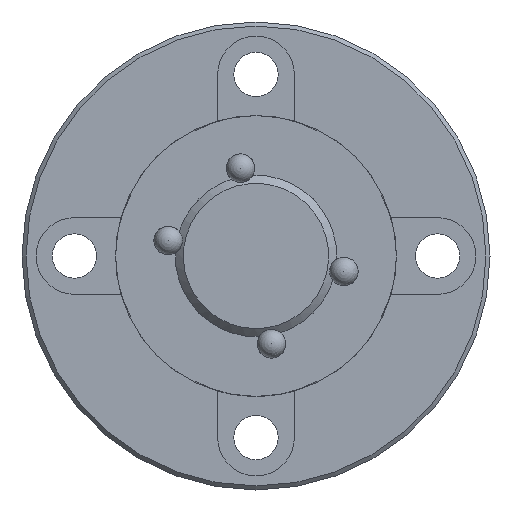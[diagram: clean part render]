
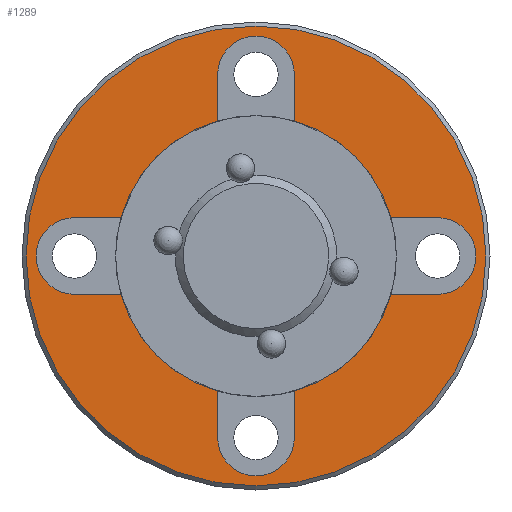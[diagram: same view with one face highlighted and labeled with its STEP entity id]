
A CAD part, left-side view. The second image highlights one B-rep face of the part: STEP entity #1289.
In plain terms, the highlighted planar face has unit normal (-1, 0, 0).
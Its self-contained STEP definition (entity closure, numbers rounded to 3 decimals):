
#54=PLANE('',#1433);
#136=LINE('',#2567,#184);
#137=LINE('',#2568,#185);
#138=LINE('',#2572,#186);
#139=LINE('',#2573,#187);
#140=LINE('',#2577,#188);
#141=LINE('',#2578,#189);
#142=LINE('',#2582,#190);
#143=LINE('',#2583,#191);
#184=VECTOR('',#1691,1000.);
#185=VECTOR('',#1692,1000.);
#186=VECTOR('',#1695,1000.);
#187=VECTOR('',#1696,1000.);
#188=VECTOR('',#1699,1000.);
#189=VECTOR('',#1700,1000.);
#190=VECTOR('',#1703,1000.);
#191=VECTOR('',#1704,1000.);
#341=ORIENTED_EDGE('',*,*,#624,.T.);
#342=ORIENTED_EDGE('',*,*,#625,.T.);
#343=ORIENTED_EDGE('',*,*,#607,.T.);
#344=ORIENTED_EDGE('',*,*,#626,.T.);
#345=ORIENTED_EDGE('',*,*,#627,.T.);
#346=ORIENTED_EDGE('',*,*,#628,.T.);
#347=ORIENTED_EDGE('',*,*,#603,.T.);
#348=ORIENTED_EDGE('',*,*,#629,.T.);
#349=ORIENTED_EDGE('',*,*,#630,.T.);
#350=ORIENTED_EDGE('',*,*,#631,.T.);
#351=ORIENTED_EDGE('',*,*,#599,.T.);
#352=ORIENTED_EDGE('',*,*,#632,.T.);
#353=ORIENTED_EDGE('',*,*,#633,.T.);
#354=ORIENTED_EDGE('',*,*,#634,.T.);
#355=ORIENTED_EDGE('',*,*,#611,.T.);
#356=ORIENTED_EDGE('',*,*,#635,.T.);
#357=ORIENTED_EDGE('',*,*,#622,.T.);
#599=EDGE_CURVE('',#755,#753,#860,.T.);
#603=EDGE_CURVE('',#759,#758,#862,.T.);
#607=EDGE_CURVE('',#763,#762,#864,.T.);
#611=EDGE_CURVE('',#767,#766,#866,.T.);
#622=EDGE_CURVE('',#776,#776,#872,.T.);
#624=EDGE_CURVE('',#778,#779,#874,.T.);
#625=EDGE_CURVE('',#779,#763,#136,.T.);
#626=EDGE_CURVE('',#762,#780,#137,.T.);
#627=EDGE_CURVE('',#780,#781,#875,.T.);
#628=EDGE_CURVE('',#781,#759,#138,.T.);
#629=EDGE_CURVE('',#758,#782,#139,.T.);
#630=EDGE_CURVE('',#782,#783,#876,.T.);
#631=EDGE_CURVE('',#783,#755,#140,.T.);
#632=EDGE_CURVE('',#753,#784,#141,.T.);
#633=EDGE_CURVE('',#784,#785,#877,.T.);
#634=EDGE_CURVE('',#785,#767,#142,.T.);
#635=EDGE_CURVE('',#766,#778,#143,.T.);
#753=VERTEX_POINT('',#2488);
#755=VERTEX_POINT('',#2491);
#758=VERTEX_POINT('',#2497);
#759=VERTEX_POINT('',#2499);
#762=VERTEX_POINT('',#2505);
#763=VERTEX_POINT('',#2507);
#766=VERTEX_POINT('',#2513);
#767=VERTEX_POINT('',#2515);
#776=VERTEX_POINT('',#2560);
#778=VERTEX_POINT('',#2565);
#779=VERTEX_POINT('',#2566);
#780=VERTEX_POINT('',#2569);
#781=VERTEX_POINT('',#2571);
#782=VERTEX_POINT('',#2574);
#783=VERTEX_POINT('',#2576);
#784=VERTEX_POINT('',#2579);
#785=VERTEX_POINT('',#2581);
#860=CIRCLE('',#1416,17.4);
#862=CIRCLE('',#1418,17.4);
#864=CIRCLE('',#1420,17.4);
#866=CIRCLE('',#1422,17.4);
#872=CIRCLE('',#1431,28.5);
#874=CIRCLE('',#1434,4.75);
#875=CIRCLE('',#1435,4.75);
#876=CIRCLE('',#1436,4.75);
#877=CIRCLE('',#1437,4.75);
#973=EDGE_LOOP('',(#341,#342,#343,#344,#345,#346,#347,#348,#349,#350,#351,
#352,#353,#354,#355,#356));
#974=EDGE_LOOP('',(#357));
#1131=FACE_BOUND('',#973,.T.);
#1132=FACE_BOUND('',#974,.T.);
#1289=ADVANCED_FACE('',(#1131,#1132),#54,.F.);
#1416=AXIS2_PLACEMENT_3D('',#2490,#1645,#1646);
#1418=AXIS2_PLACEMENT_3D('',#2498,#1651,#1652);
#1420=AXIS2_PLACEMENT_3D('',#2506,#1657,#1658);
#1422=AXIS2_PLACEMENT_3D('',#2514,#1663,#1664);
#1431=AXIS2_PLACEMENT_3D('',#2559,#1683,#1684);
#1433=AXIS2_PLACEMENT_3D('',#2563,#1687,#1688);
#1434=AXIS2_PLACEMENT_3D('',#2564,#1689,#1690);
#1435=AXIS2_PLACEMENT_3D('',#2570,#1693,#1694);
#1436=AXIS2_PLACEMENT_3D('',#2575,#1697,#1698);
#1437=AXIS2_PLACEMENT_3D('',#2580,#1701,#1702);
#1645=DIRECTION('',(1.,0.,0.));
#1646=DIRECTION('',(0.,0.,-1.));
#1651=DIRECTION('',(1.,0.,0.));
#1652=DIRECTION('',(0.,0.,-1.));
#1657=DIRECTION('',(1.,0.,0.));
#1658=DIRECTION('',(0.,0.,-1.));
#1663=DIRECTION('',(1.,0.,0.));
#1664=DIRECTION('',(0.,0.,-1.));
#1683=DIRECTION('',(-1.,0.,0.));
#1684=DIRECTION('',(0.,0.,1.));
#1687=DIRECTION('',(1.,0.,0.));
#1688=DIRECTION('',(0.,0.,-1.));
#1689=DIRECTION('',(1.,0.,0.));
#1690=DIRECTION('',(0.,-1.,0.));
#1691=DIRECTION('',(0.,-1.,0.));
#1692=DIRECTION('',(0.,0.,1.));
#1693=DIRECTION('',(1.,0.,0.));
#1694=DIRECTION('',(0.,1.,0.));
#1695=DIRECTION('',(0.,0.,-1.));
#1696=DIRECTION('',(0.,-1.,0.));
#1697=DIRECTION('',(1.,0.,0.));
#1698=DIRECTION('',(0.,1.,0.));
#1699=DIRECTION('',(0.,1.,0.));
#1700=DIRECTION('',(0.,0.,-1.));
#1701=DIRECTION('',(1.,0.,0.));
#1702=DIRECTION('',(0.,-1.,0.));
#1703=DIRECTION('',(0.,0.,1.));
#1704=DIRECTION('',(0.,1.,0.));
#2488=CARTESIAN_POINT('',(-28.,-4.75,-16.739));
#2490=CARTESIAN_POINT('',(-28.,0.,0.));
#2491=CARTESIAN_POINT('',(-28.,-16.739,-4.75));
#2497=CARTESIAN_POINT('',(-28.,-16.739,4.75));
#2498=CARTESIAN_POINT('',(-28.,0.,0.));
#2499=CARTESIAN_POINT('',(-28.,-4.75,16.739));
#2505=CARTESIAN_POINT('',(-28.,4.75,16.739));
#2506=CARTESIAN_POINT('',(-28.,0.,0.));
#2507=CARTESIAN_POINT('',(-28.,16.739,4.75));
#2513=CARTESIAN_POINT('',(-28.,16.739,-4.75));
#2514=CARTESIAN_POINT('',(-28.,0.,0.));
#2515=CARTESIAN_POINT('',(-28.,4.75,-16.739));
#2559=CARTESIAN_POINT('',(-28.,0.,0.));
#2560=CARTESIAN_POINT('',(-28.,0.,28.5));
#2563=CARTESIAN_POINT('',(-28.,28.5,0.));
#2564=CARTESIAN_POINT('',(-28.,22.5,0.));
#2565=CARTESIAN_POINT('',(-28.,22.5,-4.75));
#2566=CARTESIAN_POINT('',(-28.,22.5,4.75));
#2567=CARTESIAN_POINT('',(-28.,22.5,4.75));
#2568=CARTESIAN_POINT('',(-28.,4.75,4.75));
#2569=CARTESIAN_POINT('',(-28.,4.75,22.5));
#2570=CARTESIAN_POINT('',(-28.,0.,22.5));
#2571=CARTESIAN_POINT('',(-28.,-4.75,22.5));
#2572=CARTESIAN_POINT('',(-28.,-4.75,22.5));
#2573=CARTESIAN_POINT('',(-28.,-4.75,4.75));
#2574=CARTESIAN_POINT('',(-28.,-22.5,4.75));
#2575=CARTESIAN_POINT('',(-28.,-22.5,0.));
#2576=CARTESIAN_POINT('',(-28.,-22.5,-4.75));
#2577=CARTESIAN_POINT('',(-28.,-22.5,-4.75));
#2578=CARTESIAN_POINT('',(-28.,-4.75,-4.75));
#2579=CARTESIAN_POINT('',(-28.,-4.75,-22.5));
#2580=CARTESIAN_POINT('',(-28.,0.,-22.5));
#2581=CARTESIAN_POINT('',(-28.,4.75,-22.5));
#2582=CARTESIAN_POINT('',(-28.,4.75,-22.5));
#2583=CARTESIAN_POINT('',(-28.,4.75,-4.75));
